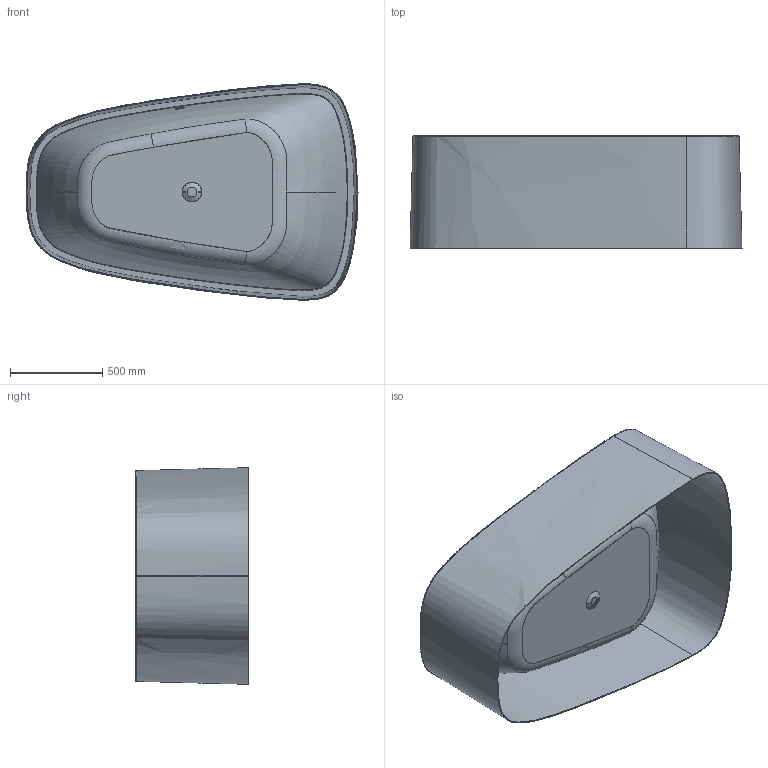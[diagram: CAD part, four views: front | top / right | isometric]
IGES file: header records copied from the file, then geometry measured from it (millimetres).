
Start section: SolidWorks IGES file using analytic representation for surfaces
Global section: file name: D:\Users\M.Szymanski\Desktop\Wanny\SINGLEBATH\03. do przegrania\WPL-kpl_SINGLEBATH_DUO_1786x1161.IGS; native system: SolidWorks 2011; preprocessor: SolidWorks 2011; author: M.Szymanski; date: 180723.074024; units: millimetre
Bounding box: 1797.95 x 610.13 x 1172.95 mm (x, y, z)
Surface area: 11673699.6 mm2 (no closed solid volume)
Topology: 0 solids, 0 shells, 60 faces, 2135 edges, 2132 vertices
Faces by surface type: bspline 44, revolution 16
